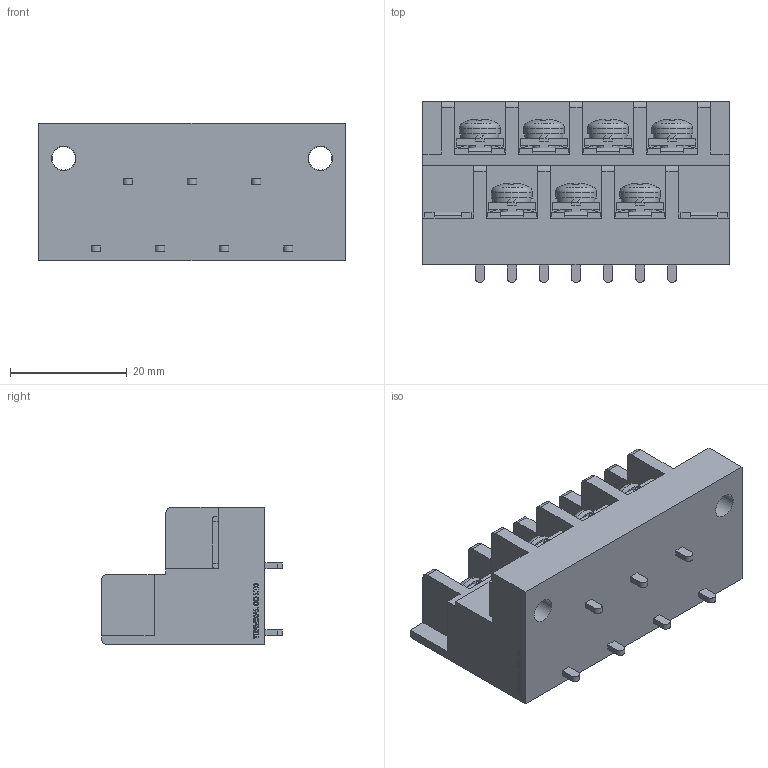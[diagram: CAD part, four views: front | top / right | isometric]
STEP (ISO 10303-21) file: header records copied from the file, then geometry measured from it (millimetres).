
FILE_DESCRIPTION(/* description */ ('Alibre Inc.'),/* implementation_level */ '2;1');
FILE_NAME(/* name */ 'export0',/* time_stamp */ '2016-08-05T14:06:52+09:00',/* author */ (''),/* organization */ (''),/* preprocessor_version */ 'ST-DEVELOPER v14',/* originating_system */ 'Alibre',/* authorisation */ '');
FILE_SCHEMA (('CONFIG_CONTROL_DESIGN'));
Length unit declared in the file: centimetre
Products named in the file (1): ID_1
Bounding box: 52.5 x 31 x 23.5 mm (x, y, z)
Volume: 21445.7 mm3; surface area: 10211.3 mm2
Topology: 1 solids, 78 shells, 1793 faces, 4693 edges, 3099 vertices
Faces by surface type: plane 1371, bspline 306, cylinder 67, cone 28, torus 14, sphere 7
Full cylindrical faces by diameter (mm): 4 x9, 4.2 x2, 7 x7
Entity records: 52533 total; most frequent: CARTESIAN_POINT 12306, ORIENTED_EDGE 9360, DIRECTION 5732, EDGE_CURVE 4652, VECTOR 3537, LINE 3537, VERTEX_POINT 3090, EDGE_LOOP 1940
